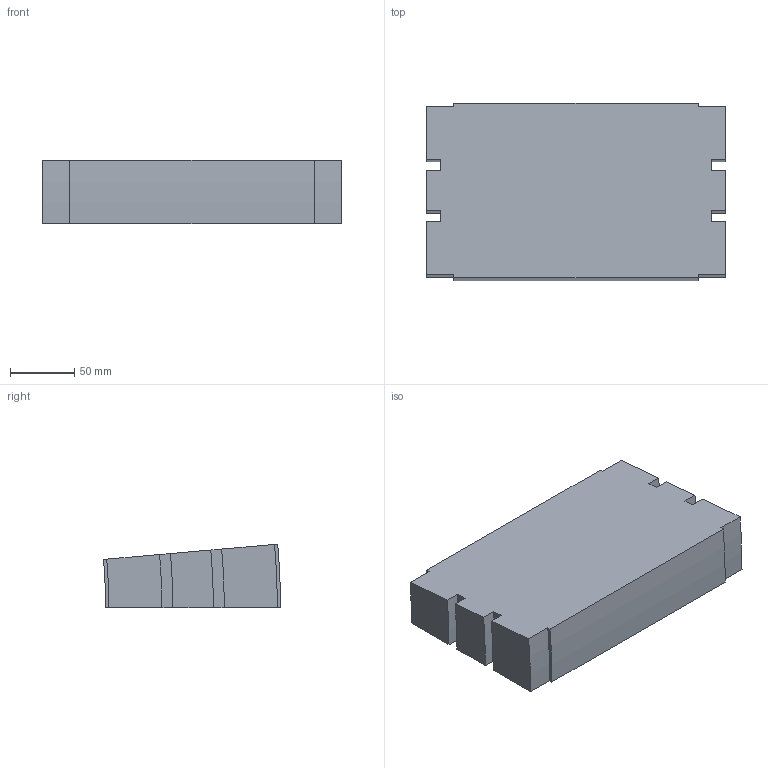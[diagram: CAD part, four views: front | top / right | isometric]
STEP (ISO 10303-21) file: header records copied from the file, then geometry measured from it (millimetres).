
FILE_DESCRIPTION (( 'STEP AP214' ), '1' );
FILE_NAME ('02.150V05.230.N FS-230-MTC-150 Bocht verticaal 5°.STEP', '2013-03-29T13:04:05', ( 'Gebruiker' ), ( '' ), 'SwSTEP 2.0', 'SolidWorks 2012', '' );
FILE_SCHEMA (( 'AUTOMOTIVE_DESIGN' ));
Length unit declared in the file: millimetre
Products named in the file (1): 02.150V05.230.N FS-230-MTC-150 Bocht verticaal 5°
Bounding box: 232.5 x 137.64 x 49.5 mm (x, y, z)
Volume: 1354201 mm3; surface area: 98069.4 mm2
Topology: 1 solids, 1 shells, 30 faces, 84 edges, 56 vertices
Faces by surface type: plane 16, cylinder 14
Entity records: 1010 total; most frequent: DIRECTION 174, CARTESIAN_POINT 171, ORIENTED_EDGE 168, EDGE_CURVE 84, AXIS2_PLACEMENT_3D 59, VECTOR 56, LINE 56, VERTEX_POINT 56
